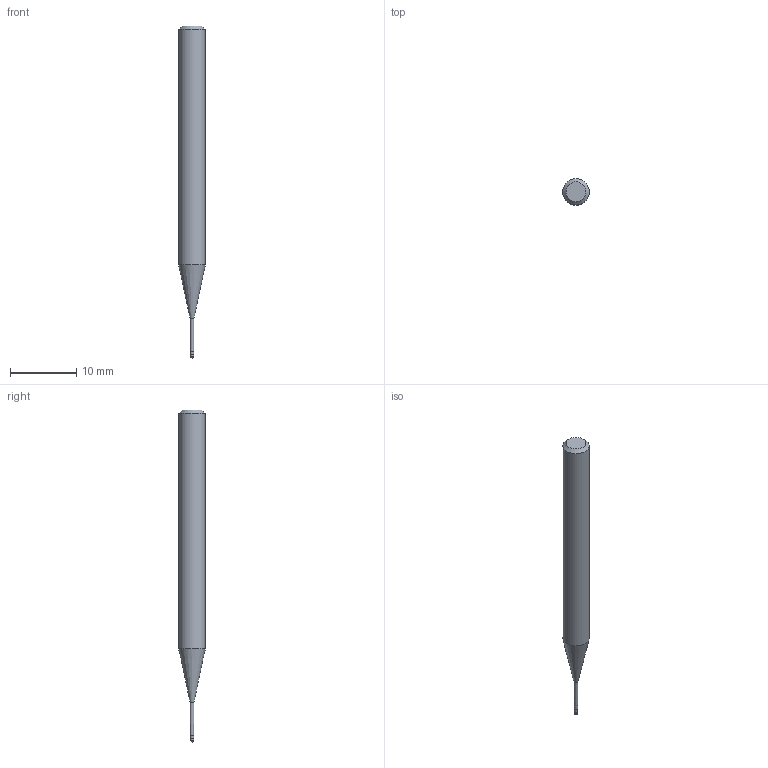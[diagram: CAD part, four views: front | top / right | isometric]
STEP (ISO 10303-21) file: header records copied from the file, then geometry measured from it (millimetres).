
FILE_DESCRIPTION((''),'2;1');
FILE_NAME('C:\Users\nsx150\AppData\Local\Temp\Mastercam 2021\SNAKH10GOD\TEMP.step','2021-10-21T13:31:09',(''),(''),'STEP Write','Mastercam 2021 ... CNC Software, Inc.','');
FILE_SCHEMA(('AUTOMOTIVE_DESIGN'));
Length unit declared in the file: millimetre
Products named in the file (1): None
Bounding box: 4 x 4 x 50 mm (x, y, z)
Volume: 491.3 mm3; surface area: 530.2 mm2
Topology: 2 solids, 2 shells, 10 faces, 16 edges, 9 vertices
Faces by surface type: plane 3, cylinder 3, cone 3, sphere 1
Full cylindrical faces by diameter (mm): 0.485 x1, 0.5 x1, 4 x1
Entity records: 232 total; most frequent: DIRECTION 40, CARTESIAN_POINT 28, AXIS2_PLACEMENT_3D 20, ORIENTED_EDGE 16, EDGE_LOOP 16, STYLED_ITEM 13, ADVANCED_FACE 10, FACE_BOUND 9
